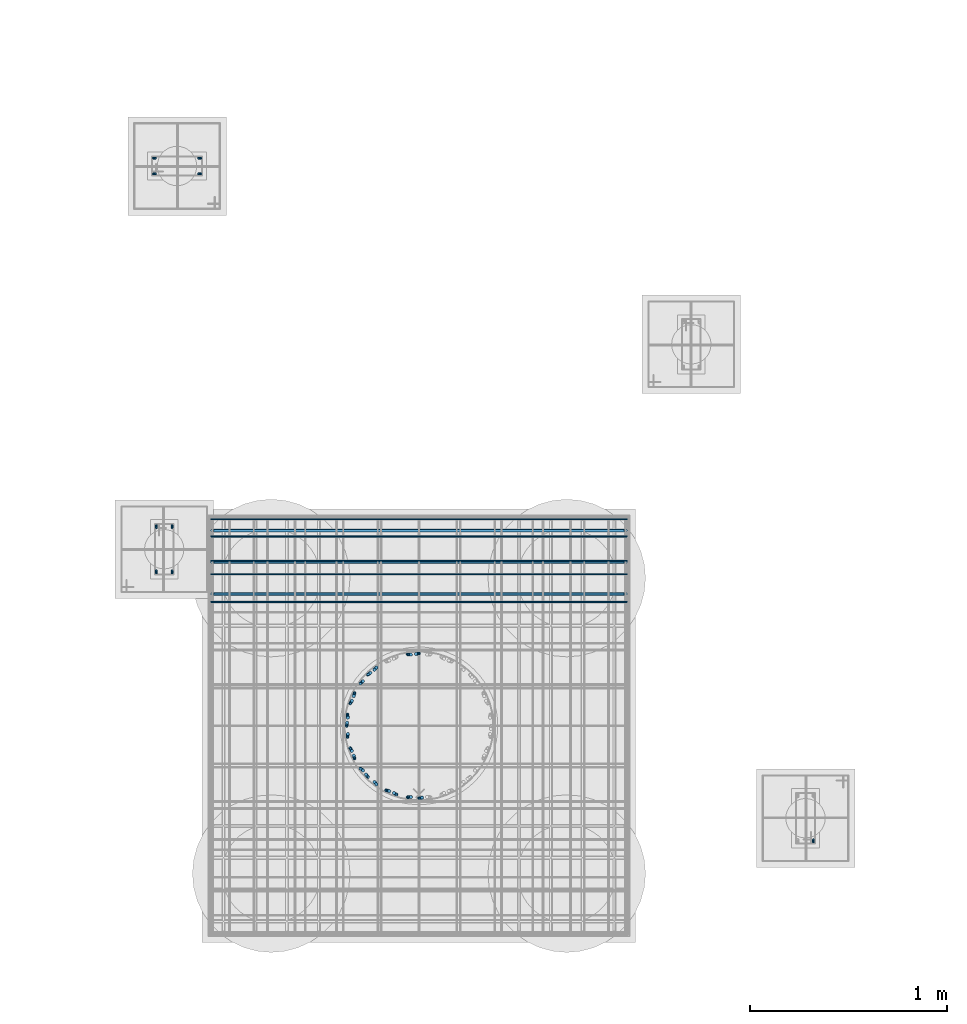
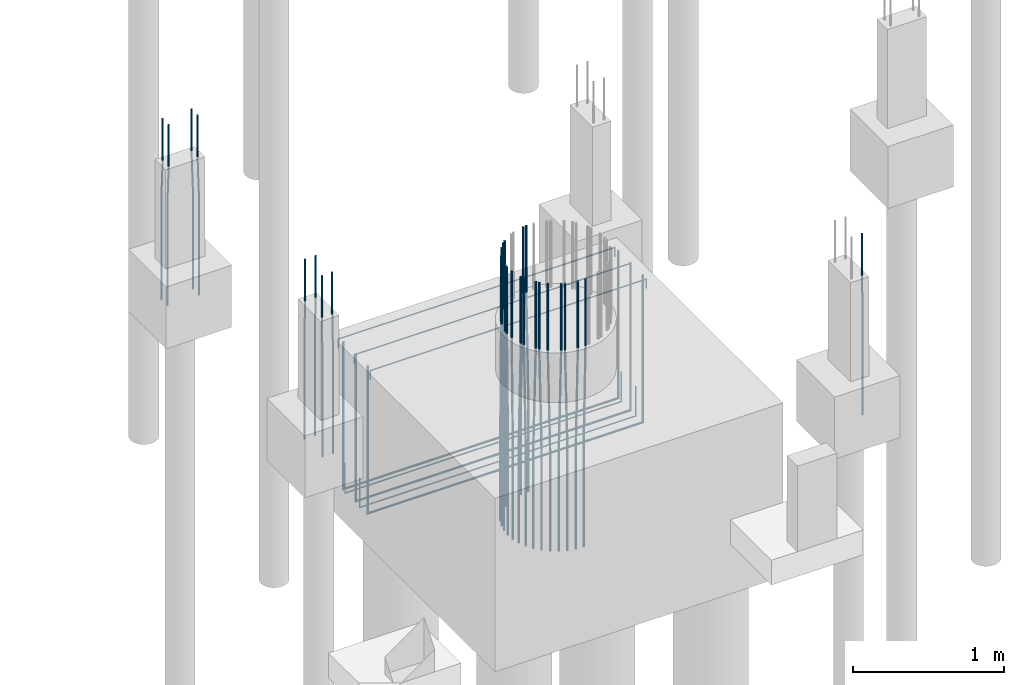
# One storey, part 13 of 119: 36 reinforcing bars.
"""IFC4 building model written with IfcOpenShell, lengths in centimetres."""

from ifc_helpers import new_model, entity, si_unit, derived_unit, frame, origin_with_axes, place, context, project, spatial, element, save


model = new_model("IFC4")

# Units and contexts
model_context = context("Model", 3, precision=1e-05, world=origin_with_axes(), identifier="Body")
ifc_project = project(units=[si_unit("LENGTHUNIT", "METRE", prefix="CENTI"), si_unit("VOLUMEUNIT", "CUBIC_METRE"), si_unit("AREAUNIT", "SQUARE_METRE"), si_unit("POWERUNIT", "WATT"), si_unit("LUMINOUSFLUXUNIT", "LUMEN"), si_unit("ELECTRICCURRENTUNIT", "AMPERE"), si_unit("PRESSUREUNIT", "PASCAL", prefix="KILO"), si_unit("MASSUNIT", "GRAM", prefix="KILO"), si_unit("PLANEANGLEUNIT", "RADIAN"), derived_unit("VOLUMETRICFLOWRATEUNIT", [(si_unit("LENGTHUNIT", "METRE"), 3), (si_unit("TIMEUNIT", "SECOND"), -1)])], contexts=[model_context])

# Site, building, storey
site_placement = place(None, frame((-4000.0, 0.0, 0.0), z_axis=(0.0, 0.0, 1.0), x_axis=(1.0, 0.0, 0.0)))
site = spatial("IfcSite", under=ifc_project, at=site_placement, Name="PADRÃO")
building_placement = place(site_placement, frame((0.0, 0.0, -14.0)))
building = spatial("IfcBuilding", under=site, at=building_placement, Name="CRECHE PRÉ-ESCOLA TIPO 2")
storey_placement = place(building_placement, origin_with_axes())
storey = spatial("IfcBuildingStorey", under=building, at=storey_placement, Name="FUNDAÇÃO", CompositionType="ELEMENT", Elevation=-14.0)

# Reinforcing bars
for number, where, z_axis, x_axis, name in (
    (1, (2250.98, 509.52, 33.3573001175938), (0.0, 0.0, 1.0), (1.0, 0.0, 0.0), "P139 - Longitudinal"),
    (2, (2250.98, 517.52, 33.3573001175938), (0.0, 0.0, 1.0), (1.0, 0.0, 0.0), "P139 - Longitudinal"),
):
    element("IfcReinforcingBar", number, at=place(storey_placement, frame(where, z_axis=z_axis, x_axis=x_axis)), inside=storey, Name=name, BarLength=0.0, CrossSectionArea=7.853981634e-05, NominalDiameter=1.0, PredefinedType="MAIN", context=model_context, shape_type="AdvancedSweptSolid", body=[
        entity("IfcSweptDiskSolid", entity("IfcCompositeCurve", [entity("IfcCompositeCurveSegment", "CONTINUOUS", True, entity("IfcPolyline", [entity("IfcCartesianPoint", [-0.5, 0.0, -145.357300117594]), entity("IfcCartesianPoint", [-0.5, 0.0, -63.3573001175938])])), entity("IfcCompositeCurveSegment", "CONTINUOUS", True, entity("IfcPolyline", [entity("IfcCartesianPoint", [-0.5, 0.0, -63.3573001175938]), entity("IfcCartesianPoint", [0.5, 0.0, -33.3573001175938])])), entity("IfcCompositeCurveSegment", "CONTINUOUS", True, entity("IfcPolyline", [entity("IfcCartesianPoint", [0.5, 0.0, -33.3573001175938]), entity("IfcCartesianPoint", [0.5, 0.0, 0.0])]))], False), 0.5),
    ])
for number, where, z_axis, x_axis, name in (
    (3, (2273.98, 517.52, 33.3573001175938), (0.0, 0.0, 1.0), (1.0, 0.0, 0.0), "P139 - Longitudinal"),
    (4, (2273.98, 509.52, 33.3573001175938), (0.0, 0.0, 1.0), (1.0, 0.0, 0.0), "P139 - Longitudinal"),
):
    element("IfcReinforcingBar", number, at=place(storey_placement, frame(where, z_axis=z_axis, x_axis=x_axis)), inside=storey, Name=name, BarLength=0.0, CrossSectionArea=7.853981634e-05, NominalDiameter=1.0, PredefinedType="MAIN", context=model_context, shape_type="AdvancedSweptSolid", body=[
        entity("IfcSweptDiskSolid", entity("IfcCompositeCurve", [entity("IfcCompositeCurveSegment", "CONTINUOUS", True, entity("IfcPolyline", [entity("IfcCartesianPoint", [0.5, 0.0, -145.357300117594]), entity("IfcCartesianPoint", [0.5, 0.0, -63.3573001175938])])), entity("IfcCompositeCurveSegment", "CONTINUOUS", True, entity("IfcPolyline", [entity("IfcCartesianPoint", [0.5, 0.0, -63.3573001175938]), entity("IfcCartesianPoint", [-0.5, 0.0, -33.3573001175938])])), entity("IfcCompositeCurveSegment", "CONTINUOUS", True, entity("IfcPolyline", [entity("IfcCartesianPoint", [-0.5, 0.0, -33.3573001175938]), entity("IfcCartesianPoint", [-0.5, 0.0, 0.0])]))], False), 0.5),
    ])
reinforcing_bar_1_placement = place(storey_placement, frame((2251.98, 307.52, 33.3573001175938), z_axis=(0.0, 0.0, 1.0), x_axis=(1.0, 0.0, 0.0)))
element("IfcReinforcingBar", 5, at=reinforcing_bar_1_placement, inside=storey, Name="P150 - Longitudinal", BarLength=0.0, CrossSectionArea=7.853981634e-05, NominalDiameter=1.0, PredefinedType="MAIN", context=model_context, shape_type="AdvancedSweptSolid", body=[
    entity("IfcSweptDiskSolid", entity("IfcCompositeCurve", [entity("IfcCompositeCurveSegment", "CONTINUOUS", True, entity("IfcPolyline", [entity("IfcCartesianPoint", [0.0, -0.5, -145.357300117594]), entity("IfcCartesianPoint", [0.0, -0.5, -63.3573001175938])])), entity("IfcCompositeCurveSegment", "CONTINUOUS", True, entity("IfcPolyline", [entity("IfcCartesianPoint", [0.0, -0.5, -63.3573001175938]), entity("IfcCartesianPoint", [0.0, 0.5, -33.3573001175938])])), entity("IfcCompositeCurveSegment", "CONTINUOUS", True, entity("IfcPolyline", [entity("IfcCartesianPoint", [0.0, 0.5, -33.3573001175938]), entity("IfcCartesianPoint", [0.0, 0.5, 0.0])]))], False), 0.5),
])
for number, where, z_axis, x_axis, name in (
    (6, (2259.98, 330.52, 33.3573001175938), (0.0, 0.0, 1.0), (1.0, 0.0, 0.0), "P150 - Longitudinal"),
    (7, (2251.98, 330.52, 33.3573001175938), (0.0, 0.0, 1.0), (1.0, 0.0, 0.0), "P150 - Longitudinal"),
):
    element("IfcReinforcingBar", number, at=place(storey_placement, frame(where, z_axis=z_axis, x_axis=x_axis)), inside=storey, Name=name, BarLength=0.0, CrossSectionArea=7.853981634e-05, NominalDiameter=1.0, PredefinedType="MAIN", context=model_context, shape_type="AdvancedSweptSolid", body=[
        entity("IfcSweptDiskSolid", entity("IfcCompositeCurve", [entity("IfcCompositeCurveSegment", "CONTINUOUS", True, entity("IfcPolyline", [entity("IfcCartesianPoint", [0.0, 0.5, -145.357300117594]), entity("IfcCartesianPoint", [0.0, 0.5, -63.3573001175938])])), entity("IfcCompositeCurveSegment", "CONTINUOUS", True, entity("IfcPolyline", [entity("IfcCartesianPoint", [0.0, 0.5, -63.3573001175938]), entity("IfcCartesianPoint", [0.0, -0.5, -33.3573001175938])])), entity("IfcCompositeCurveSegment", "CONTINUOUS", True, entity("IfcPolyline", [entity("IfcCartesianPoint", [0.0, -0.5, -33.3573001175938]), entity("IfcCartesianPoint", [0.0, -0.5, 0.0])]))], False), 0.5),
    ])
reinforcing_bar_2_placement = place(storey_placement, frame((2259.98, 307.52, 33.3573001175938), z_axis=(0.0, 0.0, 1.0), x_axis=(1.0, 0.0, 0.0)))
element("IfcReinforcingBar", 8, at=reinforcing_bar_2_placement, inside=storey, Name="P150 - Longitudinal", BarLength=0.0, CrossSectionArea=7.853981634e-05, NominalDiameter=1.0, PredefinedType="MAIN", context=model_context, shape_type="AdvancedSweptSolid", body=[
    entity("IfcSweptDiskSolid", entity("IfcCompositeCurve", [entity("IfcCompositeCurveSegment", "CONTINUOUS", True, entity("IfcPolyline", [entity("IfcCartesianPoint", [0.0, -0.5, -145.357300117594]), entity("IfcCartesianPoint", [0.0, -0.5, -63.3573001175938])])), entity("IfcCompositeCurveSegment", "CONTINUOUS", True, entity("IfcPolyline", [entity("IfcCartesianPoint", [0.0, -0.5, -63.3573001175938]), entity("IfcCartesianPoint", [0.0, 0.5, -33.3573001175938])])), entity("IfcCompositeCurveSegment", "CONTINUOUS", True, entity("IfcPolyline", [entity("IfcCartesianPoint", [0.0, 0.5, -33.3573001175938]), entity("IfcCartesianPoint", [0.0, 0.5, 0.0])]))], False), 0.5),
])
for number, where, z_axis, x_axis, name in (
    (9, (2385.28, 306.299090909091, -138.583841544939), (0.0, 0.0, 1.0), (1.0, 0.0, 0.0), "P151 - Blocos (distribuição)"),
    (10, (2385.28, 325.526363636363, -138.583841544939), (0.0, 0.0, 1.0), (1.0, 0.0, 0.0), "P151 - Blocos (distribuição)"),
):
    element("IfcReinforcingBar", number, at=place(storey_placement, frame(where, z_axis=z_axis, x_axis=x_axis)), inside=storey, Name=name, BarLength=0.0, CrossSectionArea=3.1172453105e-05, NominalDiameter=0.63, PredefinedType="MAIN", context=model_context, shape_type="AdvancedSweptSolid", body=[
        entity("IfcSweptDiskSolid", entity("IfcCompositeCurve", [entity("IfcCompositeCurveSegment", "CONTINUOUS", True, entity("IfcPolyline", [entity("IfcCartesianPoint", [105.435, 0.0, 0.0]), entity("IfcCartesianPoint", [105.435, 0.0, -23.7311584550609])])), entity("IfcCompositeCurveSegment", "CONTINUOUS", True, entity("IfcPolyline", [entity("IfcCartesianPoint", [105.435, 0.0, -23.7311584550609]), entity("IfcCartesianPoint", [-105.435, 0.0, -23.7311584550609])])), entity("IfcCompositeCurveSegment", "CONTINUOUS", True, entity("IfcPolyline", [entity("IfcCartesianPoint", [-105.435, 0.0, -23.7311584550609]), entity("IfcCartesianPoint", [-105.435, 0.0, 0.0])]))], False), 0.315),
    ])
for number, where, z_axis, x_axis, name in (
    (11, (2385.28, 328.59, -42.2), (0.0, 0.0, 1.0), (1.0, 0.0, 0.0), "P151 - Blocos (principal)"),
    (12, (2385.28, 312.456666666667, -42.2), (0.0, 0.0, 1.0), (1.0, 0.0, 0.0), "P151 - Blocos (principal)"),
    (13, (2385.28, 296.323333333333, -42.2), (0.0, 0.0, 1.0), (1.0, 0.0, 0.0), "P151 - Blocos (principal)"),
):
    element("IfcReinforcingBar", number, at=place(storey_placement, frame(where, z_axis=z_axis, x_axis=x_axis)), inside=storey, Name=name, BarLength=0.0, CrossSectionArea=0.00020106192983, NominalDiameter=1.6, PredefinedType="MAIN", context=model_context, shape_type="AdvancedSweptSolid", body=[
        entity("IfcSweptDiskSolid", entity("IfcCompositeCurve", [entity("IfcCompositeCurveSegment", "CONTINUOUS", True, entity("IfcPolyline", [entity("IfcCartesianPoint", [-104.95, 0.0, 0.0]), entity("IfcCartesianPoint", [-104.95, 0.0, -119.0])])), entity("IfcCompositeCurveSegment", "CONTINUOUS", True, entity("IfcPolyline", [entity("IfcCartesianPoint", [-104.95, 0.0, -119.0]), entity("IfcCartesianPoint", [104.95, 0.0, -119.0])])), entity("IfcCompositeCurveSegment", "CONTINUOUS", True, entity("IfcPolyline", [entity("IfcCartesianPoint", [104.95, 0.0, -119.0]), entity("IfcCartesianPoint", [104.95, 0.0, 0.0])]))], False), 0.8),
    ])
for number, where, z_axis, x_axis, name in (
    (14, (2385.28, 334.195000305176, -42.9970452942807), (0.0, 0.0, 1.0), (1.0, 0.0, 0.0), "P151 - Blocos (superior)"),
    (15, (2385.28, 313.23400177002, -42.9970452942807), (0.0, 0.0, 1.0), (1.0, 0.0, 0.0), "P151 - Blocos (superior)"),
    (16, (2385.28, 292.272999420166, -42.9970452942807), (0.0, 0.0, 1.0), (1.0, 0.0, 0.0), "P151 - Blocos (superior)"),
):
    element("IfcReinforcingBar", number, at=place(storey_placement, frame(where, z_axis=z_axis, x_axis=x_axis)), inside=storey, Name=name, BarLength=0.0, CrossSectionArea=3.1172453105e-05, NominalDiameter=0.63, PredefinedType="MAIN", context=model_context, shape_type="AdvancedSweptSolid", body=[
        entity("IfcSweptDiskSolid", entity("IfcCompositeCurve", [entity("IfcCompositeCurveSegment", "CONTINUOUS", True, entity("IfcPolyline", [entity("IfcCartesianPoint", [105.434997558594, 0.0, -7.56295333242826]), entity("IfcCartesianPoint", [105.434997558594, 0.0, -0.31795333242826])])), entity("IfcCompositeCurveSegment", "CONTINUOUS", True, entity("IfcPolyline", [entity("IfcCartesianPoint", [105.434997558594, 0.0, -0.31795333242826]), entity("IfcCartesianPoint", [-105.434997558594, 0.0, -0.31795333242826])])), entity("IfcCompositeCurveSegment", "CONTINUOUS", True, entity("IfcPolyline", [entity("IfcCartesianPoint", [-105.434997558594, 0.0, -0.31795333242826]), entity("IfcCartesianPoint", [-105.434997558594, 0.0, -7.56295333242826])]))], False), 0.315),
    ])
reinforcing_bar_3_placement = place(storey_placement, frame((2380.35352365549, 265.579178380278, 53.37168018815), z_axis=(0.0, 0.0, 1.0), x_axis=(1.0, 0.0, 0.0)))
element("IfcReinforcingBar", 17, at=reinforcing_bar_3_placement, inside=storey, Name="P151 - Longitudinal", BarLength=0.0, CrossSectionArea=0.00020106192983, NominalDiameter=1.6, PredefinedType="MAIN", context=model_context, shape_type="AdvancedSweptSolid", body=[
    entity("IfcSweptDiskSolid", entity("IfcCompositeCurve", [entity("IfcCompositeCurveSegment", "CONTINUOUS", True, entity("IfcPolyline", [entity("IfcCartesianPoint", [-0.814668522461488, 0.058983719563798, -215.37168018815]), entity("IfcCartesianPoint", [-0.814668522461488, 0.058983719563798, -133.37168018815])])), entity("IfcCompositeCurveSegment", "CONTINUOUS", True, entity("IfcPolyline", [entity("IfcCartesianPoint", [-0.814668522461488, 0.058983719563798, -133.37168018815]), entity("IfcCartesianPoint", [0.814668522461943, -0.058983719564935, -53.37168018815])])), entity("IfcCompositeCurveSegment", "CONTINUOUS", True, entity("IfcPolyline", [entity("IfcCartesianPoint", [0.814668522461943, -0.058983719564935, -53.37168018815]), entity("IfcCartesianPoint", [0.814668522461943, -0.058983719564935, 0.0])]))], False), 0.8),
])
reinforcing_bar_4_placement = place(storey_placement, frame((2384.48868661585, 265.971583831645, 53.37168018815), z_axis=(0.0, 0.0, 1.0), x_axis=(1.0, 0.0, 0.0)))
element("IfcReinforcingBar", 18, at=reinforcing_bar_4_placement, inside=storey, Name="P151 - Longitudinal", BarLength=0.0, CrossSectionArea=0.00020106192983, NominalDiameter=1.6, PredefinedType="MAIN", context=model_context, shape_type="AdvancedSweptSolid", body=[
    entity("IfcSweptDiskSolid", entity("IfcCompositeCurve", [entity("IfcCompositeCurveSegment", "CONTINUOUS", True, entity("IfcPolyline", [entity("IfcCartesianPoint", [0.791313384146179, 0.118416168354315, -215.37168018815]), entity("IfcCartesianPoint", [0.791313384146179, 0.118416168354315, -133.37168018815])])), entity("IfcCompositeCurveSegment", "CONTINUOUS", True, entity("IfcPolyline", [entity("IfcCartesianPoint", [0.791313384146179, 0.118416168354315, -133.37168018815]), entity("IfcCartesianPoint", [-0.791313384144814, -0.118416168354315, -53.37168018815])])), entity("IfcCompositeCurveSegment", "CONTINUOUS", True, entity("IfcPolyline", [entity("IfcCartesianPoint", [-0.791313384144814, -0.118416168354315, -53.37168018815]), entity("IfcCartesianPoint", [-0.791313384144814, -0.118416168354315, 0.0])]))], False), 0.8),
])
reinforcing_bar_5_placement = place(storey_placement, frame((2386.07131338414, 192.808416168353, 53.37168018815), z_axis=(0.0, 0.0, 1.0), x_axis=(1.0, 0.0, 0.0)))
element("IfcReinforcingBar", 19, at=reinforcing_bar_5_placement, inside=storey, Name="P151 - Longitudinal", BarLength=0.0, CrossSectionArea=0.00020106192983, NominalDiameter=1.6, PredefinedType="MAIN", context=model_context, shape_type="AdvancedSweptSolid", body=[
    entity("IfcSweptDiskSolid", entity("IfcCompositeCurve", [entity("IfcCompositeCurveSegment", "CONTINUOUS", True, entity("IfcPolyline", [entity("IfcCartesianPoint", [-0.79131338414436, -0.11841616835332, -215.37168018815]), entity("IfcCartesianPoint", [-0.79131338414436, -0.11841616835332, -133.37168018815])])), entity("IfcCompositeCurveSegment", "CONTINUOUS", True, entity("IfcPolyline", [entity("IfcCartesianPoint", [-0.79131338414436, -0.11841616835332, -133.37168018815]), entity("IfcCartesianPoint", [0.791313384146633, 0.11841616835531, -53.37168018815])])), entity("IfcCompositeCurveSegment", "CONTINUOUS", True, entity("IfcPolyline", [entity("IfcCartesianPoint", [0.791313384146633, 0.11841616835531, -53.37168018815]), entity("IfcCartesianPoint", [0.791313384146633, 0.11841616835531, 0.0])]))], False), 0.8),
])
reinforcing_bar_6_placement = place(storey_placement, frame((2380.35352365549, 193.200821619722, 53.37168018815), z_axis=(0.0, 0.0, 1.0), x_axis=(1.0, 0.0, 0.0)))
element("IfcReinforcingBar", 20, at=reinforcing_bar_6_placement, inside=storey, Name="P151 - Longitudinal", BarLength=0.0, CrossSectionArea=0.00020106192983, NominalDiameter=1.6, PredefinedType="MAIN", context=model_context, shape_type="AdvancedSweptSolid", body=[
    entity("IfcSweptDiskSolid", entity("IfcCompositeCurve", [entity("IfcCompositeCurveSegment", "CONTINUOUS", True, entity("IfcPolyline", [entity("IfcCartesianPoint", [-0.814668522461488, -0.058983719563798, -215.37168018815]), entity("IfcCartesianPoint", [-0.814668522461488, -0.058983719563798, -133.37168018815])])), entity("IfcCompositeCurveSegment", "CONTINUOUS", True, entity("IfcPolyline", [entity("IfcCartesianPoint", [-0.814668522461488, -0.058983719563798, -133.37168018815]), entity("IfcCartesianPoint", [0.814668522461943, 0.058983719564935, -53.37168018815])])), entity("IfcCompositeCurveSegment", "CONTINUOUS", True, entity("IfcPolyline", [entity("IfcCartesianPoint", [0.814668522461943, 0.058983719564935, -53.37168018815]), entity("IfcCartesianPoint", [0.814668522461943, 0.058983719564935, 0.0])]))], False), 0.8),
])
reinforcing_bar_7_placement = place(storey_placement, frame((2373.24380365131, 194.898189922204, 53.37168018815), z_axis=(0.0, 0.0, 1.0), x_axis=(1.0, 0.0, 0.0)))
element("IfcReinforcingBar", 21, at=reinforcing_bar_7_placement, inside=storey, Name="P151 - Longitudinal", BarLength=0.0, CrossSectionArea=0.00020106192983, NominalDiameter=1.6, PredefinedType="MAIN", context=model_context, shape_type="AdvancedSweptSolid", body=[
    entity("IfcSweptDiskSolid", entity("IfcCompositeCurve", [entity("IfcCompositeCurveSegment", "CONTINUOUS", True, entity("IfcPolyline", [entity("IfcCartesianPoint", [0.695272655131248, -0.411964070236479, -215.37168018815]), entity("IfcCartesianPoint", [0.695272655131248, -0.411964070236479, -133.37168018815])])), entity("IfcCompositeCurveSegment", "CONTINUOUS", True, entity("IfcPolyline", [entity("IfcCartesianPoint", [0.695272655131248, -0.411964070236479, -133.37168018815]), entity("IfcCartesianPoint", [-0.695272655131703, 0.411964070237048, -53.37168018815])])), entity("IfcCompositeCurveSegment", "CONTINUOUS", True, entity("IfcPolyline", [entity("IfcCartesianPoint", [-0.695272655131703, 0.411964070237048, -53.37168018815]), entity("IfcCartesianPoint", [-0.695272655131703, 0.411964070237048, 0.0])]))], False), 0.8),
])
reinforcing_bar_8_placement = place(storey_placement, frame((2369.40148325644, 196.489731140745, 53.37168018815), z_axis=(0.0, 0.0, 1.0), x_axis=(1.0, 0.0, 0.0)))
element("IfcReinforcingBar", 22, at=reinforcing_bar_8_placement, inside=storey, Name="P151 - Longitudinal", BarLength=0.0, CrossSectionArea=0.00020106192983, NominalDiameter=1.6, PredefinedType="MAIN", context=model_context, shape_type="AdvancedSweptSolid", body=[
    entity("IfcSweptDiskSolid", entity("IfcCompositeCurve", [entity("IfcCompositeCurveSegment", "CONTINUOUS", True, entity("IfcPolyline", [entity("IfcCartesianPoint", [-0.782934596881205, 0.200329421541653, -215.37168018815]), entity("IfcCartesianPoint", [-0.782934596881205, 0.200329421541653, -133.37168018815])])), entity("IfcCompositeCurveSegment", "CONTINUOUS", True, entity("IfcPolyline", [entity("IfcCartesianPoint", [-0.782934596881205, 0.200329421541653, -133.37168018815]), entity("IfcCartesianPoint", [0.782934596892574, -0.200329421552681, -53.37168018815])])), entity("IfcCompositeCurveSegment", "CONTINUOUS", True, entity("IfcPolyline", [entity("IfcCartesianPoint", [0.782934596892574, -0.200329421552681, -53.37168018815]), entity("IfcCartesianPoint", [0.782934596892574, -0.200329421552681, 0.0])]))], False), 0.8),
])
reinforcing_bar_9_placement = place(storey_placement, frame((2363.17393139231, 200.316841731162, 53.37168018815), z_axis=(0.0, 0.0, 1.0), x_axis=(1.0, 0.0, 0.0)))
element("IfcReinforcingBar", 23, at=reinforcing_bar_9_placement, inside=storey, Name="P151 - Longitudinal", BarLength=0.0, CrossSectionArea=0.00020106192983, NominalDiameter=1.6, PredefinedType="MAIN", context=model_context, shape_type="AdvancedSweptSolid", body=[
    entity("IfcSweptDiskSolid", entity("IfcCompositeCurve", [entity("IfcCompositeCurveSegment", "CONTINUOUS", True, entity("IfcPolyline", [entity("IfcCartesianPoint", [0.534349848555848, -0.617765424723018, -215.37168018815]), entity("IfcCartesianPoint", [0.534349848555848, -0.617765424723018, -133.37168018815])])), entity("IfcCompositeCurveSegment", "CONTINUOUS", True, entity("IfcPolyline", [entity("IfcCartesianPoint", [0.534349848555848, -0.617765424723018, -133.37168018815]), entity("IfcCartesianPoint", [-0.53434984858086, 0.617765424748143, -53.37168018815])])), entity("IfcCompositeCurveSegment", "CONTINUOUS", True, entity("IfcPolyline", [entity("IfcCartesianPoint", [-0.53434984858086, 0.617765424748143, -53.37168018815]), entity("IfcCartesianPoint", [-0.53434984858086, 0.617765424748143, 0.0])]))], False), 0.8),
])
reinforcing_bar_10_placement = place(storey_placement, frame((2358.85337094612, 204.082457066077, 53.37168018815), z_axis=(0.0, 0.0, 1.0), x_axis=(1.0, 0.0, 0.0)))
element("IfcReinforcingBar", 24, at=reinforcing_bar_10_placement, inside=storey, Name="P151 - Longitudinal", BarLength=0.0, CrossSectionArea=0.00020106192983, NominalDiameter=1.6, PredefinedType="MAIN", context=model_context, shape_type="AdvancedSweptSolid", body=[
    entity("IfcSweptDiskSolid", entity("IfcCompositeCurve", [entity("IfcCompositeCurveSegment", "CONTINUOUS", True, entity("IfcPolyline", [entity("IfcCartesianPoint", [0.475810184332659, -0.643275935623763, -215.37168018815]), entity("IfcCartesianPoint", [0.475810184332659, -0.643275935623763, -133.37168018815])])), entity("IfcCompositeCurveSegment", "CONTINUOUS", True, entity("IfcPolyline", [entity("IfcCartesianPoint", [0.475810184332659, -0.643275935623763, -133.37168018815]), entity("IfcCartesianPoint", [-0.475810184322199, 0.64327593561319, -53.37168018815])])), entity("IfcCompositeCurveSegment", "CONTINUOUS", True, entity("IfcPolyline", [entity("IfcCartesianPoint", [-0.475810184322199, 0.64327593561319, -53.37168018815]), entity("IfcCartesianPoint", [-0.475810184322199, 0.64327593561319, 0.0])]))], False), 0.8),
])
reinforcing_bar_11_placement = place(storey_placement, frame((2356.20684173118, 207.283931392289, 53.37168018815), z_axis=(0.0, 0.0, 1.0), x_axis=(1.0, 0.0, 0.0)))
element("IfcReinforcingBar", 25, at=reinforcing_bar_11_placement, inside=storey, Name="P151 - Longitudinal", BarLength=0.0, CrossSectionArea=0.00020106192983, NominalDiameter=1.6, PredefinedType="MAIN", context=model_context, shape_type="AdvancedSweptSolid", body=[
    entity("IfcSweptDiskSolid", entity("IfcCompositeCurve", [entity("IfcCompositeCurveSegment", "CONTINUOUS", True, entity("IfcPolyline", [entity("IfcCartesianPoint", [-0.617765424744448, 0.534349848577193, -215.37168018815]), entity("IfcCartesianPoint", [-0.617765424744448, 0.534349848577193, -133.37168018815])])), entity("IfcCompositeCurveSegment", "CONTINUOUS", True, entity("IfcPolyline", [entity("IfcCartesianPoint", [-0.617765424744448, 0.534349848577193, -133.37168018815]), entity("IfcCartesianPoint", [0.617765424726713, -0.53434984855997, -53.37168018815])])), entity("IfcCompositeCurveSegment", "CONTINUOUS", True, entity("IfcPolyline", [entity("IfcCartesianPoint", [0.617765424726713, -0.53434984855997, -53.37168018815]), entity("IfcCartesianPoint", [0.617765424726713, -0.53434984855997, 0.0])]))], False), 0.8),
])
reinforcing_bar_12_placement = place(storey_placement, frame((2352.37973114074, 213.511483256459, 53.37168018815), z_axis=(0.0, 0.0, 1.0), x_axis=(1.0, 0.0, 0.0)))
element("IfcReinforcingBar", 26, at=reinforcing_bar_12_placement, inside=storey, Name="P151 - Longitudinal", BarLength=0.0, CrossSectionArea=0.00020106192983, NominalDiameter=1.6, PredefinedType="MAIN", context=model_context, shape_type="AdvancedSweptSolid", body=[
    entity("IfcSweptDiskSolid", entity("IfcCompositeCurve", [entity("IfcCompositeCurveSegment", "CONTINUOUS", True, entity("IfcPolyline", [entity("IfcCartesianPoint", [0.200329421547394, -0.782934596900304, -215.37168018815]), entity("IfcCartesianPoint", [0.200329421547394, -0.782934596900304, -133.37168018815])])), entity("IfcCompositeCurveSegment", "CONTINUOUS", True, entity("IfcPolyline", [entity("IfcCartesianPoint", [0.200329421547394, -0.782934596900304, -133.37168018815]), entity("IfcCartesianPoint", [-0.20032942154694, 0.782934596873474, -53.37168018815])])), entity("IfcCompositeCurveSegment", "CONTINUOUS", True, entity("IfcPolyline", [entity("IfcCartesianPoint", [-0.20032942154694, 0.782934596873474, -53.37168018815]), entity("IfcCartesianPoint", [-0.20032942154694, 0.782934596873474, 0.0])]))], False), 0.8),
])
reinforcing_bar_13_placement = place(storey_placement, frame((2350.78818992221, 217.353803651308, 53.37168018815), z_axis=(0.0, 0.0, 1.0), x_axis=(1.0, 0.0, 0.0)))
element("IfcReinforcingBar", 27, at=reinforcing_bar_13_placement, inside=storey, Name="P151 - Longitudinal", BarLength=0.0, CrossSectionArea=0.00020106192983, NominalDiameter=1.6, PredefinedType="MAIN", context=model_context, shape_type="AdvancedSweptSolid", body=[
    entity("IfcSweptDiskSolid", entity("IfcCompositeCurve", [entity("IfcCompositeCurveSegment", "CONTINUOUS", True, entity("IfcPolyline", [entity("IfcCartesianPoint", [-0.411964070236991, 0.695272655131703, -215.37168018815]), entity("IfcCartesianPoint", [-0.411964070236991, 0.695272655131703, -133.37168018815])])), entity("IfcCompositeCurveSegment", "CONTINUOUS", True, entity("IfcPolyline", [entity("IfcCartesianPoint", [-0.411964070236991, 0.695272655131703, -133.37168018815]), entity("IfcCartesianPoint", [0.411964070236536, -0.695272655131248, -53.37168018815])])), entity("IfcCompositeCurveSegment", "CONTINUOUS", True, entity("IfcPolyline", [entity("IfcCartesianPoint", [0.411964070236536, -0.695272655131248, -53.37168018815]), entity("IfcCartesianPoint", [0.411964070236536, -0.695272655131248, 0.0])]))], False), 0.8),
])
reinforcing_bar_14_placement = place(storey_placement, frame((2349.09082161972, 224.463523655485, 53.37168018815), z_axis=(0.0, 0.0, 1.0), x_axis=(1.0, 0.0, 0.0)))
element("IfcReinforcingBar", 28, at=reinforcing_bar_14_placement, inside=storey, Name="P151 - Longitudinal", BarLength=0.0, CrossSectionArea=0.00020106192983, NominalDiameter=1.6, PredefinedType="MAIN", context=model_context, shape_type="AdvancedSweptSolid", body=[
    entity("IfcSweptDiskSolid", entity("IfcCompositeCurve", [entity("IfcCompositeCurveSegment", "CONTINUOUS", True, entity("IfcPolyline", [entity("IfcCartesianPoint", [-0.058983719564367, -0.814668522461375, -215.37168018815]), entity("IfcCartesianPoint", [-0.058983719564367, -0.814668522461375, -133.37168018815])])), entity("IfcCompositeCurveSegment", "CONTINUOUS", True, entity("IfcPolyline", [entity("IfcCartesianPoint", [-0.058983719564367, -0.814668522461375, -133.37168018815]), entity("IfcCartesianPoint", [0.058983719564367, 0.814668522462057, -53.37168018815])])), entity("IfcCompositeCurveSegment", "CONTINUOUS", True, entity("IfcPolyline", [entity("IfcCartesianPoint", [0.058983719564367, 0.814668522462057, -53.37168018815]), entity("IfcCartesianPoint", [0.058983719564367, 0.814668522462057, 0.0])]))], False), 0.8),
])
reinforcing_bar_15_placement = place(storey_placement, frame((2348.69841616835, 230.181313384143, 53.37168018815), z_axis=(0.0, 0.0, 1.0), x_axis=(1.0, 0.0, 0.0)))
element("IfcReinforcingBar", 29, at=reinforcing_bar_15_placement, inside=storey, Name="P151 - Longitudinal", BarLength=0.0, CrossSectionArea=0.00020106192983, NominalDiameter=1.6, PredefinedType="MAIN", context=model_context, shape_type="AdvancedSweptSolid", body=[
    entity("IfcSweptDiskSolid", entity("IfcCompositeCurve", [entity("IfcCompositeCurveSegment", "CONTINUOUS", True, entity("IfcPolyline", [entity("IfcCartesianPoint", [-0.118416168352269, -0.79131338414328, -215.37168018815]), entity("IfcCartesianPoint", [-0.118416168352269, -0.79131338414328, -133.37168018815])])), entity("IfcCompositeCurveSegment", "CONTINUOUS", True, entity("IfcPolyline", [entity("IfcCartesianPoint", [-0.118416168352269, -0.79131338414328, -133.37168018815]), entity("IfcCartesianPoint", [0.118416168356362, 0.791313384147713, -53.37168018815])])), entity("IfcCompositeCurveSegment", "CONTINUOUS", True, entity("IfcPolyline", [entity("IfcCartesianPoint", [0.118416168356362, 0.791313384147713, -53.37168018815]), entity("IfcCartesianPoint", [0.118416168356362, 0.791313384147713, 0.0])]))], False), 0.8),
])
reinforcing_bar_16_placement = place(storey_placement, frame((2349.09082161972, 234.316476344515, 53.37168018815), z_axis=(0.0, 0.0, 1.0), x_axis=(1.0, 0.0, 0.0)))
element("IfcReinforcingBar", 30, at=reinforcing_bar_16_placement, inside=storey, Name="P151 - Longitudinal", BarLength=0.0, CrossSectionArea=0.00020106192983, NominalDiameter=1.6, PredefinedType="MAIN", context=model_context, shape_type="AdvancedSweptSolid", body=[
    entity("IfcSweptDiskSolid", entity("IfcCompositeCurve", [entity("IfcCompositeCurveSegment", "CONTINUOUS", True, entity("IfcPolyline", [entity("IfcCartesianPoint", [-0.058983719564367, 0.814668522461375, -215.37168018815]), entity("IfcCartesianPoint", [-0.058983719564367, 0.814668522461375, -133.37168018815])])), entity("IfcCompositeCurveSegment", "CONTINUOUS", True, entity("IfcPolyline", [entity("IfcCartesianPoint", [-0.058983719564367, 0.814668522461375, -133.37168018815]), entity("IfcCartesianPoint", [0.058983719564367, -0.814668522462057, -53.37168018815])])), entity("IfcCompositeCurveSegment", "CONTINUOUS", True, entity("IfcPolyline", [entity("IfcCartesianPoint", [0.058983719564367, -0.814668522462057, -53.37168018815]), entity("IfcCartesianPoint", [0.058983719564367, -0.814668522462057, 0.0])]))], False), 0.8),
])
reinforcing_bar_17_placement = place(storey_placement, frame((2350.78818992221, 241.426196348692, 53.37168018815), z_axis=(0.0, 0.0, 1.0), x_axis=(1.0, 0.0, 0.0)))
element("IfcReinforcingBar", 31, at=reinforcing_bar_17_placement, inside=storey, Name="P151 - Longitudinal", BarLength=0.0, CrossSectionArea=0.00020106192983, NominalDiameter=1.6, PredefinedType="MAIN", context=model_context, shape_type="AdvancedSweptSolid", body=[
    entity("IfcSweptDiskSolid", entity("IfcCompositeCurve", [entity("IfcCompositeCurveSegment", "CONTINUOUS", True, entity("IfcPolyline", [entity("IfcCartesianPoint", [-0.411964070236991, -0.695272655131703, -215.37168018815]), entity("IfcCartesianPoint", [-0.411964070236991, -0.695272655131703, -133.37168018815])])), entity("IfcCompositeCurveSegment", "CONTINUOUS", True, entity("IfcPolyline", [entity("IfcCartesianPoint", [-0.411964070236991, -0.695272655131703, -133.37168018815]), entity("IfcCartesianPoint", [0.411964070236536, 0.695272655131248, -53.37168018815])])), entity("IfcCompositeCurveSegment", "CONTINUOUS", True, entity("IfcPolyline", [entity("IfcCartesianPoint", [0.411964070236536, 0.695272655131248, -53.37168018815]), entity("IfcCartesianPoint", [0.411964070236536, 0.695272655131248, 0.0])]))], False), 0.8),
])
reinforcing_bar_18_placement = place(storey_placement, frame((2352.37973114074, 245.268516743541, 53.37168018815), z_axis=(0.0, 0.0, 1.0), x_axis=(1.0, 0.0, 0.0)))
element("IfcReinforcingBar", 32, at=reinforcing_bar_18_placement, inside=storey, Name="P151 - Longitudinal", BarLength=0.0, CrossSectionArea=0.00020106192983, NominalDiameter=1.6, PredefinedType="MAIN", context=model_context, shape_type="AdvancedSweptSolid", body=[
    entity("IfcSweptDiskSolid", entity("IfcCompositeCurve", [entity("IfcCompositeCurveSegment", "CONTINUOUS", True, entity("IfcPolyline", [entity("IfcCartesianPoint", [0.200329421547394, 0.782934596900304, -215.37168018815]), entity("IfcCartesianPoint", [0.200329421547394, 0.782934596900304, -133.37168018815])])), entity("IfcCompositeCurveSegment", "CONTINUOUS", True, entity("IfcPolyline", [entity("IfcCartesianPoint", [0.200329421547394, 0.782934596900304, -133.37168018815]), entity("IfcCartesianPoint", [-0.20032942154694, -0.782934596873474, -53.37168018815])])), entity("IfcCompositeCurveSegment", "CONTINUOUS", True, entity("IfcPolyline", [entity("IfcCartesianPoint", [-0.20032942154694, -0.782934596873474, -53.37168018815]), entity("IfcCartesianPoint", [-0.20032942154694, -0.782934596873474, 0.0])]))], False), 0.8),
])
reinforcing_bar_19_placement = place(storey_placement, frame((2356.20684173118, 251.496068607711, 53.37168018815), z_axis=(0.0, 0.0, 1.0), x_axis=(1.0, 0.0, 0.0)))
element("IfcReinforcingBar", 33, at=reinforcing_bar_19_placement, inside=storey, Name="P151 - Longitudinal", BarLength=0.0, CrossSectionArea=0.00020106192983, NominalDiameter=1.6, PredefinedType="MAIN", context=model_context, shape_type="AdvancedSweptSolid", body=[
    entity("IfcSweptDiskSolid", entity("IfcCompositeCurve", [entity("IfcCompositeCurveSegment", "CONTINUOUS", True, entity("IfcPolyline", [entity("IfcCartesianPoint", [-0.617765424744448, -0.534349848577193, -215.37168018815]), entity("IfcCartesianPoint", [-0.617765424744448, -0.534349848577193, -133.37168018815])])), entity("IfcCompositeCurveSegment", "CONTINUOUS", True, entity("IfcPolyline", [entity("IfcCartesianPoint", [-0.617765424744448, -0.534349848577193, -133.37168018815]), entity("IfcCartesianPoint", [0.617765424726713, 0.53434984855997, -53.37168018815])])), entity("IfcCompositeCurveSegment", "CONTINUOUS", True, entity("IfcPolyline", [entity("IfcCartesianPoint", [0.617765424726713, 0.53434984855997, -53.37168018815]), entity("IfcCartesianPoint", [0.617765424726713, 0.53434984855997, 0.0])]))], False), 0.8),
])
reinforcing_bar_20_placement = place(storey_placement, frame((2359.97245706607, 255.816629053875, 53.37168018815), z_axis=(0.0, 0.0, 1.0), x_axis=(1.0, 0.0, 0.0)))
element("IfcReinforcingBar", 34, at=reinforcing_bar_20_placement, inside=storey, Name="P151 - Longitudinal", BarLength=0.0, CrossSectionArea=0.00020106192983, NominalDiameter=1.6, PredefinedType="MAIN", context=model_context, shape_type="AdvancedSweptSolid", body=[
    entity("IfcSweptDiskSolid", entity("IfcCompositeCurve", [entity("IfcCompositeCurveSegment", "CONTINUOUS", True, entity("IfcPolyline", [entity("IfcCartesianPoint", [-0.643275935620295, -0.475810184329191, -215.37168018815]), entity("IfcCartesianPoint", [-0.643275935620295, -0.475810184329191, -133.37168018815])])), entity("IfcCompositeCurveSegment", "CONTINUOUS", True, entity("IfcPolyline", [entity("IfcCartesianPoint", [-0.643275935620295, -0.475810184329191, -133.37168018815]), entity("IfcCartesianPoint", [0.643275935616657, 0.475810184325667, -53.37168018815])])), entity("IfcCompositeCurveSegment", "CONTINUOUS", True, entity("IfcPolyline", [entity("IfcCartesianPoint", [0.643275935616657, 0.475810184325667, -53.37168018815]), entity("IfcCartesianPoint", [0.643275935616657, 0.475810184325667, 0.0])]))], False), 0.8),
])
reinforcing_bar_21_placement = place(storey_placement, frame((2363.17393139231, 258.463158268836, 53.37168018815), z_axis=(0.0, 0.0, 1.0), x_axis=(1.0, 0.0, 0.0)))
element("IfcReinforcingBar", 35, at=reinforcing_bar_21_placement, inside=storey, Name="P151 - Longitudinal", BarLength=0.0, CrossSectionArea=0.00020106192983, NominalDiameter=1.6, PredefinedType="MAIN", context=model_context, shape_type="AdvancedSweptSolid", body=[
    entity("IfcSweptDiskSolid", entity("IfcCompositeCurve", [entity("IfcCompositeCurveSegment", "CONTINUOUS", True, entity("IfcPolyline", [entity("IfcCartesianPoint", [0.534349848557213, 0.617765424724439, -215.37168018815]), entity("IfcCartesianPoint", [0.534349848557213, 0.617765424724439, -133.37168018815])])), entity("IfcCompositeCurveSegment", "CONTINUOUS", True, entity("IfcPolyline", [entity("IfcCartesianPoint", [0.534349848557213, 0.617765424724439, -133.37168018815]), entity("IfcCartesianPoint", [-0.534349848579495, -0.617765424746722, -53.37168018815])])), entity("IfcCompositeCurveSegment", "CONTINUOUS", True, entity("IfcPolyline", [entity("IfcCartesianPoint", [-0.534349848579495, -0.617765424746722, -53.37168018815]), entity("IfcCartesianPoint", [-0.534349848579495, -0.617765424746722, 0.0])]))], False), 0.8),
])
reinforcing_bar_22_placement = place(storey_placement, frame((2585.46, 171.0, 33.3573001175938), z_axis=(0.0, 0.0, 1.0), x_axis=(1.0, 0.0, 0.0)))
element("IfcReinforcingBar", 36, at=reinforcing_bar_22_placement, inside=storey, Name="P152 - Longitudinal", BarLength=0.0, CrossSectionArea=7.853981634e-05, NominalDiameter=1.0, PredefinedType="MAIN", context=model_context, shape_type="AdvancedSweptSolid", body=[
    entity("IfcSweptDiskSolid", entity("IfcCompositeCurve", [entity("IfcCompositeCurveSegment", "CONTINUOUS", True, entity("IfcPolyline", [entity("IfcCartesianPoint", [0.0, -0.5, -145.357300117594]), entity("IfcCartesianPoint", [0.0, -0.5, -63.3573001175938])])), entity("IfcCompositeCurveSegment", "CONTINUOUS", True, entity("IfcPolyline", [entity("IfcCartesianPoint", [0.0, -0.5, -63.3573001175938]), entity("IfcCartesianPoint", [0.0, 0.5, -33.3573001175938])])), entity("IfcCompositeCurveSegment", "CONTINUOUS", True, entity("IfcPolyline", [entity("IfcCartesianPoint", [0.0, 0.5, -33.3573001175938]), entity("IfcCartesianPoint", [0.0, 0.5, 0.0])]))], False), 0.5),
])

save(model, "model.ifc")
